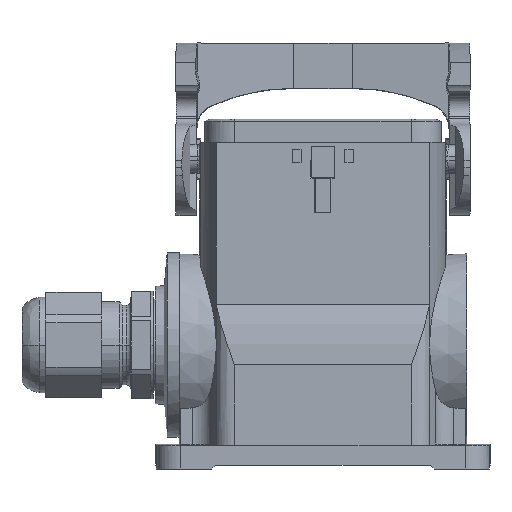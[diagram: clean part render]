
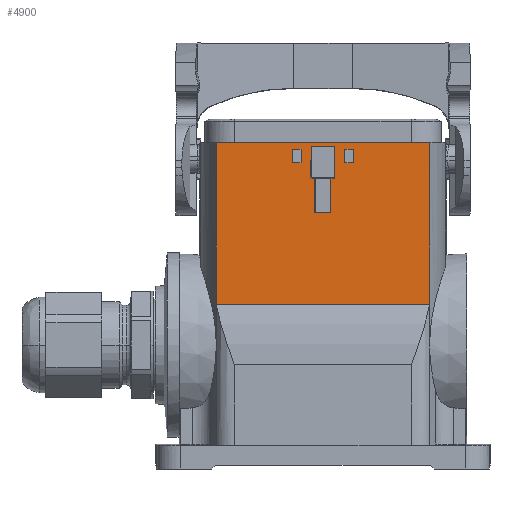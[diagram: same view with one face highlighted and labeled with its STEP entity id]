
A CAD part, front view. The second image highlights one B-rep face of the part: STEP entity #4900.
In plain terms, the highlighted planar face has unit normal (0, -1, 0).
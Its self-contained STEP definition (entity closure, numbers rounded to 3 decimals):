
#4215=FACE_BOUND('',#6664,.T.);
#4216=FACE_BOUND('',#6665,.T.);
#4217=FACE_BOUND('',#6666,.T.);
#4218=FACE_BOUND('',#6667,.T.);
#4900=ADVANCED_FACE('',(#4215,#4216,#4217,#4218),#5540,.T.);
#5540=PLANE('',#25147);
#6664=EDGE_LOOP('',(#9464,#9465,#9466,#9467));
#6665=EDGE_LOOP('',(#9468,#9469,#9470,#9471));
#6666=EDGE_LOOP('',(#9472,#9473,#9474,#9475,#9476,#9477,#9478,#9479));
#6667=EDGE_LOOP('',(#9480,#9481,#9482,#9483));
#9464=ORIENTED_EDGE('',*,*,#15084,.F.);
#9465=ORIENTED_EDGE('',*,*,#15085,.F.);
#9466=ORIENTED_EDGE('',*,*,#15086,.F.);
#9467=ORIENTED_EDGE('',*,*,#15087,.F.);
#9468=ORIENTED_EDGE('',*,*,#15088,.F.);
#9469=ORIENTED_EDGE('',*,*,#15089,.T.);
#9470=ORIENTED_EDGE('',*,*,#15090,.T.);
#9471=ORIENTED_EDGE('',*,*,#15091,.T.);
#9472=ORIENTED_EDGE('',*,*,#15092,.T.);
#9473=ORIENTED_EDGE('',*,*,#15093,.T.);
#9474=ORIENTED_EDGE('',*,*,#15094,.T.);
#9475=ORIENTED_EDGE('',*,*,#15095,.T.);
#9476=ORIENTED_EDGE('',*,*,#15096,.T.);
#9477=ORIENTED_EDGE('',*,*,#15097,.T.);
#9478=ORIENTED_EDGE('',*,*,#15098,.T.);
#9479=ORIENTED_EDGE('',*,*,#15099,.T.);
#9480=ORIENTED_EDGE('',*,*,#15100,.F.);
#9481=ORIENTED_EDGE('',*,*,#15101,.F.);
#9482=ORIENTED_EDGE('',*,*,#15102,.F.);
#9483=ORIENTED_EDGE('',*,*,#15103,.F.);
#13114=VERTEX_POINT('',#36304);
#13115=VERTEX_POINT('',#36305);
#13116=VERTEX_POINT('',#36307);
#13117=VERTEX_POINT('',#36309);
#13118=VERTEX_POINT('',#36312);
#13119=VERTEX_POINT('',#36313);
#13120=VERTEX_POINT('',#36315);
#13121=VERTEX_POINT('',#36317);
#13122=VERTEX_POINT('',#36320);
#13123=VERTEX_POINT('',#36321);
#13124=VERTEX_POINT('',#36323);
#13125=VERTEX_POINT('',#36325);
#13126=VERTEX_POINT('',#36327);
#13127=VERTEX_POINT('',#36329);
#13128=VERTEX_POINT('',#36331);
#13129=VERTEX_POINT('',#36333);
#13130=VERTEX_POINT('',#36336);
#13131=VERTEX_POINT('',#36337);
#13132=VERTEX_POINT('',#36339);
#13133=VERTEX_POINT('',#36341);
#15084=EDGE_CURVE('',#13114,#13115,#20492,.T.);
#15085=EDGE_CURVE('',#13116,#13114,#20493,.T.);
#15086=EDGE_CURVE('',#13117,#13116,#20494,.T.);
#15087=EDGE_CURVE('',#13115,#13117,#20495,.T.);
#15088=EDGE_CURVE('',#13118,#13119,#20496,.T.);
#15089=EDGE_CURVE('',#13118,#13120,#20497,.T.);
#15090=EDGE_CURVE('',#13120,#13121,#20498,.T.);
#15091=EDGE_CURVE('',#13121,#13119,#20499,.T.);
#15092=EDGE_CURVE('',#13122,#13123,#20500,.T.);
#15093=EDGE_CURVE('',#13123,#13124,#20501,.T.);
#15094=EDGE_CURVE('',#13124,#13125,#20502,.T.);
#15095=EDGE_CURVE('',#13125,#13126,#20503,.T.);
#15096=EDGE_CURVE('',#13126,#13127,#20504,.T.);
#15097=EDGE_CURVE('',#13127,#13128,#20505,.T.);
#15098=EDGE_CURVE('',#13128,#13129,#20506,.T.);
#15099=EDGE_CURVE('',#13129,#13122,#20507,.T.);
#15100=EDGE_CURVE('',#13130,#13131,#20508,.T.);
#15101=EDGE_CURVE('',#13132,#13130,#20509,.T.);
#15102=EDGE_CURVE('',#13133,#13132,#20510,.T.);
#15103=EDGE_CURVE('',#13131,#13133,#20511,.T.);
#20492=LINE('',#36303,#21963);
#20493=LINE('',#36306,#21964);
#20494=LINE('',#36308,#21965);
#20495=LINE('',#36310,#21966);
#20496=LINE('',#36311,#21967);
#20497=LINE('',#36314,#21968);
#20498=LINE('',#36316,#21969);
#20499=LINE('',#36318,#21970);
#20500=LINE('',#36319,#21971);
#20501=LINE('',#36322,#21972);
#20502=LINE('',#36324,#21973);
#20503=LINE('',#36326,#21974);
#20504=LINE('',#36328,#21975);
#20505=LINE('',#36330,#21976);
#20506=LINE('',#36332,#21977);
#20507=LINE('',#36334,#21978);
#20508=LINE('',#36335,#21979);
#20509=LINE('',#36338,#21980);
#20510=LINE('',#36340,#21981);
#20511=LINE('',#36342,#21982);
#21963=VECTOR('',#27529,1.);
#21964=VECTOR('',#27530,1.);
#21965=VECTOR('',#27531,1.);
#21966=VECTOR('',#27532,1.);
#21967=VECTOR('',#27533,1.);
#21968=VECTOR('',#27534,1.);
#21969=VECTOR('',#27535,1.);
#21970=VECTOR('',#27536,1.);
#21971=VECTOR('',#27537,1.);
#21972=VECTOR('',#27538,1.);
#21973=VECTOR('',#27539,1.);
#21974=VECTOR('',#27540,1.);
#21975=VECTOR('',#27541,1.);
#21976=VECTOR('',#27542,1.);
#21977=VECTOR('',#27543,1.);
#21978=VECTOR('',#27544,1.);
#21979=VECTOR('',#27545,1.);
#21980=VECTOR('',#27546,1.);
#21981=VECTOR('',#27547,1.);
#21982=VECTOR('',#27548,1.);
#25147=AXIS2_PLACEMENT_3D('',#36343,#27549,#27550);
#27529=DIRECTION('',(0.,0.,1.));
#27530=DIRECTION('',(1.,0.,0.));
#27531=DIRECTION('',(0.,0.,-1.));
#27532=DIRECTION('',(-1.,0.,0.));
#27533=DIRECTION('',(-1.,0.,0.));
#27534=DIRECTION('',(0.,0.,1.));
#27535=DIRECTION('',(-1.,0.,0.));
#27536=DIRECTION('',(0.,0.,-1.));
#27537=DIRECTION('',(0.017,0.,-1.));
#27538=DIRECTION('',(-1.,0.,0.));
#27539=DIRECTION('',(0.,0.,-1.));
#27540=DIRECTION('',(-1.,0.,0.));
#27541=DIRECTION('',(0.,0.,1.));
#27542=DIRECTION('',(-1.,0.,0.));
#27543=DIRECTION('',(0.017,0.,1.));
#27544=DIRECTION('',(1.,0.,0.));
#27545=DIRECTION('',(1.,0.,0.));
#27546=DIRECTION('',(0.,0.,-1.));
#27547=DIRECTION('',(-1.,0.,0.));
#27548=DIRECTION('',(0.,0.,1.));
#27549=DIRECTION('',(0.,-1.,0.));
#27550=DIRECTION('',(-1.,0.,0.));
#36303=CARTESIAN_POINT('',(-5.5,-22.5,5.7));
#36304=CARTESIAN_POINT('',(-5.5,-22.5,0.6));
#36305=CARTESIAN_POINT('',(-5.5,-22.5,4.));
#36306=CARTESIAN_POINT('',(-7.7,-22.5,0.6));
#36307=CARTESIAN_POINT('',(-7.7,-22.5,0.6));
#36308=CARTESIAN_POINT('',(-7.7,-22.5,4.));
#36309=CARTESIAN_POINT('',(-7.7,-22.5,4.));
#36310=CARTESIAN_POINT('',(-5.5,-22.5,4.));
#36311=CARTESIAN_POINT('',(26.85,-22.5,-35.001));
#36312=CARTESIAN_POINT('',(26.85,-22.5,-35.001));
#36313=CARTESIAN_POINT('',(-26.85,-22.5,-35.001));
#36314=CARTESIAN_POINT('',(26.85,-22.5,5.7));
#36315=CARTESIAN_POINT('',(26.85,-22.5,5.7));
#36316=CARTESIAN_POINT('',(0.,-22.5,5.7));
#36317=CARTESIAN_POINT('',(-26.85,-22.5,5.7));
#36318=CARTESIAN_POINT('',(-26.85,-22.5,5.7));
#36319=CARTESIAN_POINT('',(2.047,-22.5,-5.964));
#36320=CARTESIAN_POINT('',(1.86,-22.5,4.75));
#36321=CARTESIAN_POINT('',(2.001,-22.5,-3.285));
#36322=CARTESIAN_POINT('',(0.,-22.5,-3.285));
#36323=CARTESIAN_POINT('',(2.,-22.5,-3.285));
#36324=CARTESIAN_POINT('',(2.,-22.5,-6.));
#36325=CARTESIAN_POINT('',(2.,-22.5,-11.95));
#36326=CARTESIAN_POINT('',(0.,-22.5,-11.95));
#36327=CARTESIAN_POINT('',(-2.,-22.5,-11.95));
#36328=CARTESIAN_POINT('',(-2.,-22.5,-6.));
#36329=CARTESIAN_POINT('',(-2.,-22.5,-3.285));
#36330=CARTESIAN_POINT('',(0.,-22.5,-3.285));
#36331=CARTESIAN_POINT('',(-2.001,-22.5,-3.285));
#36332=CARTESIAN_POINT('',(-2.047,-22.5,-5.964));
#36333=CARTESIAN_POINT('',(-1.86,-22.5,4.75));
#36334=CARTESIAN_POINT('',(-2.,-22.5,4.75));
#36335=CARTESIAN_POINT('',(5.5,-22.5,0.6));
#36336=CARTESIAN_POINT('',(5.5,-22.5,0.6));
#36337=CARTESIAN_POINT('',(7.7,-22.5,0.6));
#36338=CARTESIAN_POINT('',(5.5,-22.5,4.));
#36339=CARTESIAN_POINT('',(5.5,-22.5,4.));
#36340=CARTESIAN_POINT('',(7.7,-22.5,4.));
#36341=CARTESIAN_POINT('',(7.7,-22.5,4.));
#36342=CARTESIAN_POINT('',(7.7,-22.5,0.6));
#36343=CARTESIAN_POINT('',(0.,-22.5,5.7));
